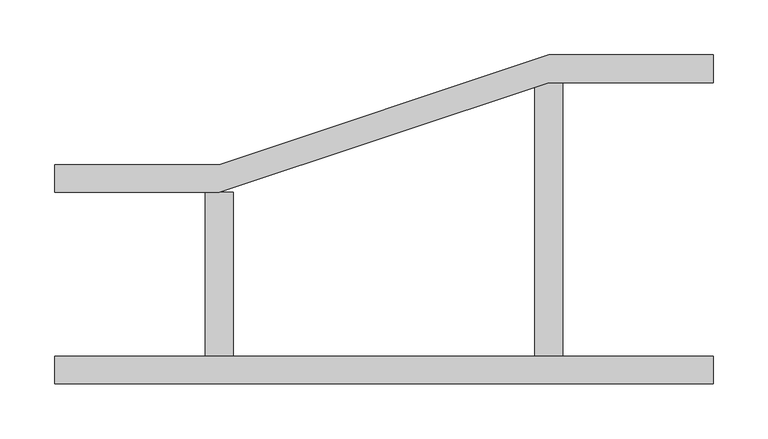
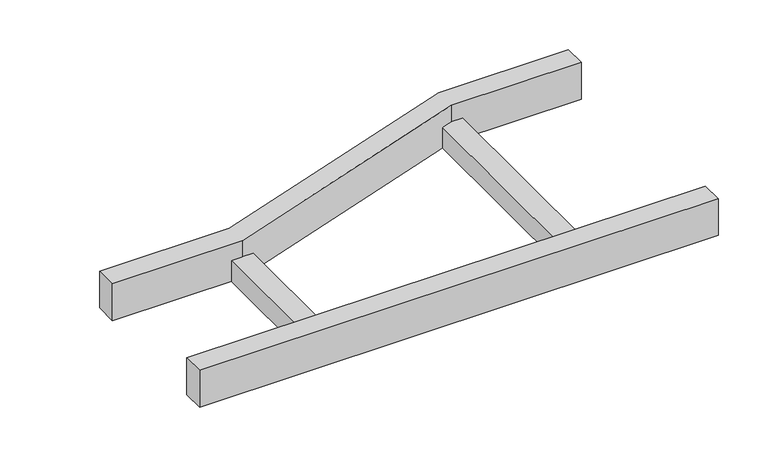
"""IFC4 building model written with IfcOpenShell, lengths in millimetres: cable carrier fitting geometry, BAKS_LD_RED_Straight reducer_RD : RD(S/L/P)C_H45."""

from ifc_helpers import new_model, si_unit, frame, origin, place, context, project, spatial, polyline, outline, extrude, source, transform, mapped, element, save


def cable_carrier_fitting_45659740(model_context):
    return source(origin(), model_context, "Body", "SweptSolid", [
        extrude(outline(polyline([(0.0, -100.0), (0.0, -74.6), (600.0, -74.6), (600.0, -100.0), (0.0, -100.0)])), frame((0.0, 0.0, -22.5), z_axis=(0.0, 0.0, 1.0), x_axis=(1.0, 0.0, 0.0)), (0.0, 0.0, 1.0), 45.0),
        extrude(outline(polyline([(0.0, 74.6), (0.0, 100.0), (150.0, 100.0), (450.0, 200.0), (600.0, 200.0), (600.0, 174.6), (450.0, 174.6), (150.0, 74.6), (0.0, 74.6)])), frame((0.0, 0.0, -22.5), z_axis=(0.0, 0.0, 1.0), x_axis=(1.0, 0.0, 0.0)), (0.0, 0.0, 1.0), 45.0),
        extrude(outline(polyline([(437.3, 174.6), (462.7, 174.6), (462.7, -74.6), (437.3, -74.6), (437.3, 174.6)])), frame((0.0, 0.0, -22.5), z_axis=(0.0, 0.0, 1.0), x_axis=(1.0, 0.0, 0.0)), (0.0, 0.0, 1.0), 25.4),
        extrude(outline(polyline([(137.3, 74.6), (162.7, 74.6), (162.7, -74.6), (137.3, -74.6), (137.3, 74.6)])), frame((0.0, 0.0, -22.5), z_axis=(0.0, 0.0, 1.0), x_axis=(1.0, 0.0, 0.0)), (0.0, 0.0, 1.0), 25.4),
    ])


if __name__ == "__main__":
    model = new_model("IFC4")
    model_context = context("Model", 3, world=origin())
    ifc_project = project(units=[si_unit("LENGTHUNIT", "METRE", prefix="MILLI")], contexts=[model_context])
    site = spatial("IfcSite", under=ifc_project)
    building = spatial("IfcBuilding", under=site)
    placement = place(None, origin())
    cable_carrier_fitting_shape = cable_carrier_fitting_45659740(model_context)
    element("IfcCableCarrierFitting", 1, ObjectType="BAKS_LD_RED_Straight reducer_RD : RD(S/L/P)C_H45", at=placement, inside=building, context=model_context, shape_type="MappedRepresentation", body=[
        mapped(cable_carrier_fitting_shape, transform((0.0, 0.0, 0.0), x_axis=(1.0, 0.0, 0.0), y_axis=(0.0, 1.0, 0.0), z_axis=(0.0, 0.0, 1.0))),
    ])
    save(model, "model.ifc")
